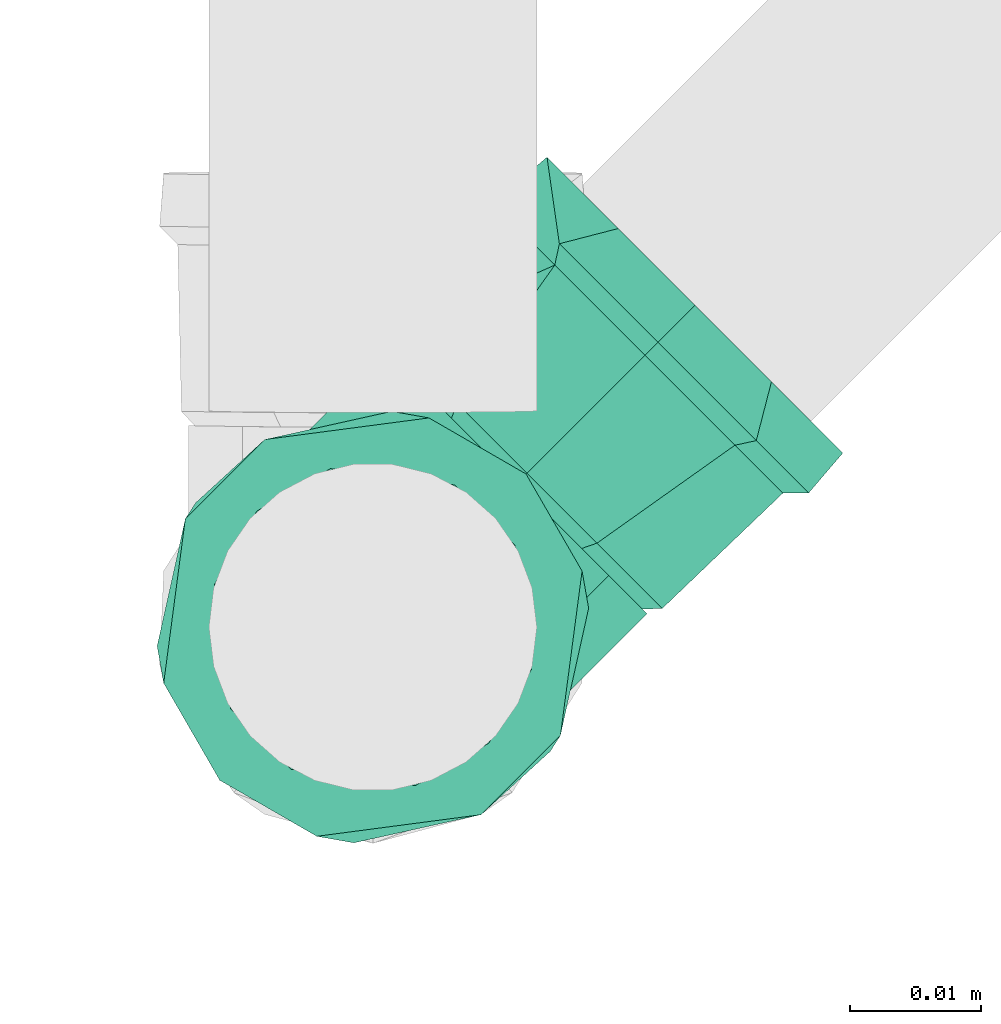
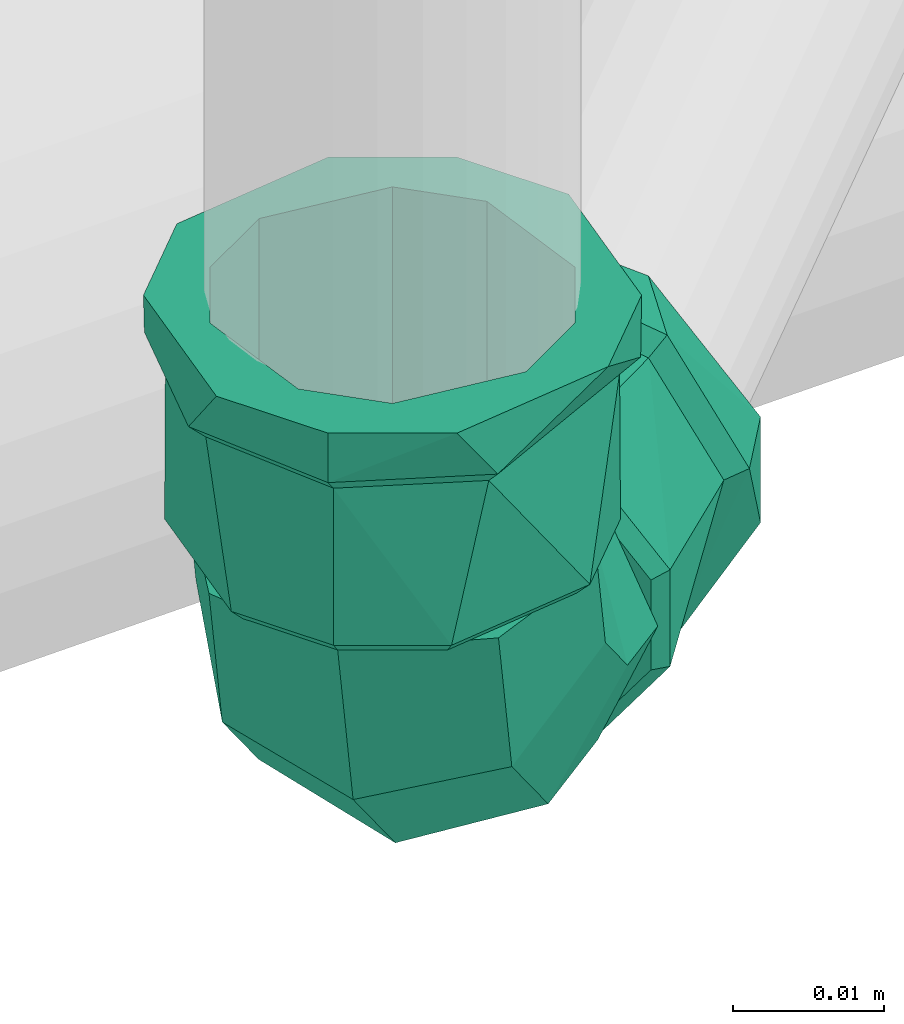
# One storey, part 358 of 589: 1 flow fitting.
"""IFC2X3 building model written with IfcOpenShell, lengths in millimetres."""

from ifc_helpers import new_model, entity, si_unit, converted_unit, derived_unit, direction, frame, origin, place, context, subcontext, project, spatial, faceted_brep, source, transform, mapped, material, type_object, type_shapes, element, save


model = new_model("IFC2X3")

# Units and contexts
model_context = context("Model", 3, precision=0.01, world=origin(), true_north=direction((6.123031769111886e-17, 1.0)))
body_context = subcontext(model_context, "Body", "Model", "MODEL_VIEW")
ifc_project = project(units=[si_unit("LENGTHUNIT", "METRE", prefix="MILLI"), si_unit("AREAUNIT", "SQUARE_METRE"), si_unit("VOLUMEUNIT", "CUBIC_METRE"), converted_unit("PLANEANGLEUNIT", "DEGREE", entity("IfcRatioMeasure", 0.017453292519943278), si_unit("PLANEANGLEUNIT", "RADIAN"), dimensions=[0, 0, 0, 0, 0, 0, 0]), si_unit("MASSUNIT", "GRAM", prefix="KILO"), derived_unit("MASSDENSITYUNIT", [(si_unit("MASSUNIT", "GRAM", prefix="KILO"), 1), (si_unit("LENGTHUNIT", "METRE"), -3)]), derived_unit("IONCONCENTRATIONUNIT", [(si_unit("MASSUNIT", "GRAM", prefix="KILO"), 1), (si_unit("LENGTHUNIT", "METRE"), -3)]), derived_unit("MOMENTOFINERTIAUNIT", [(si_unit("LENGTHUNIT", "METRE"), 4)]), si_unit("TIMEUNIT", "SECOND"), si_unit("FREQUENCYUNIT", "HERTZ"), si_unit("THERMODYNAMICTEMPERATUREUNIT", "DEGREE_CELSIUS"), derived_unit("THERMALTRANSMITTANCEUNIT", [(si_unit("MASSUNIT", "GRAM", prefix="KILO"), 1), (si_unit("THERMODYNAMICTEMPERATUREUNIT", "KELVIN"), -1), (si_unit("TIMEUNIT", "SECOND"), -3)]), derived_unit("THERMALCONDUCTANCEUNIT", [(si_unit("MASSUNIT", "GRAM", prefix="KILO"), 1), (si_unit("THERMODYNAMICTEMPERATUREUNIT", "KELVIN"), -1), (si_unit("TIMEUNIT", "SECOND"), -3), (si_unit("LENGTHUNIT", "METRE"), 1)]), derived_unit("VOLUMETRICFLOWRATEUNIT", [(si_unit("LENGTHUNIT", "METRE"), 3), (si_unit("TIMEUNIT", "SECOND"), -1)]), derived_unit("MASSFLOWRATEUNIT", [(si_unit("MASSUNIT", "GRAM", prefix="KILO"), 1), (si_unit("TIMEUNIT", "SECOND"), -1)]), derived_unit("ROTATIONALFREQUENCYUNIT", [(si_unit("TIMEUNIT", "SECOND"), -1)]), si_unit("ELECTRICCURRENTUNIT", "AMPERE"), si_unit("ELECTRICVOLTAGEUNIT", "VOLT"), si_unit("POWERUNIT", "WATT"), si_unit("FORCEUNIT", "NEWTON", prefix="KILO"), si_unit("ILLUMINANCEUNIT", "LUX"), si_unit("LUMINOUSFLUXUNIT", "LUMEN"), si_unit("LUMINOUSINTENSITYUNIT", "CANDELA"), derived_unit("USERDEFINED", [(si_unit("MASSUNIT", "GRAM", prefix="KILO"), -1), (si_unit("LENGTHUNIT", "METRE"), -2), (si_unit("TIMEUNIT", "SECOND"), 3), (si_unit("LUMINOUSFLUXUNIT", "LUMEN"), 1)]), derived_unit("USERDEFINED", [(si_unit("MASSUNIT", "GRAM", prefix="KILO"), 1), (si_unit("TIMEUNIT", "SECOND"), -3), (si_unit("LENGTHUNIT", "METRE"), 3), (si_unit("ELECTRICCURRENTUNIT", "AMPERE"), -2)]), derived_unit("SOUNDPOWERUNIT", [(si_unit("MASSUNIT", "GRAM", prefix="KILO"), 1), (si_unit("TIMEUNIT", "SECOND"), -3), (si_unit("LENGTHUNIT", "METRE"), 2)]), derived_unit("SOUNDPRESSUREUNIT", [(si_unit("MASSUNIT", "GRAM", prefix="KILO"), 1), (si_unit("LENGTHUNIT", "METRE"), -1), (si_unit("TIMEUNIT", "SECOND"), -2)]), derived_unit("LINEARVELOCITYUNIT", [(si_unit("LENGTHUNIT", "METRE"), 1), (si_unit("TIMEUNIT", "SECOND"), -1)]), si_unit("PRESSUREUNIT", "PASCAL"), derived_unit("USERDEFINED", [(si_unit("MASSUNIT", "GRAM", prefix="KILO"), 1), (si_unit("LENGTHUNIT", "METRE"), -2), (si_unit("TIMEUNIT", "SECOND"), -2)]), derived_unit("LINEARFORCEUNIT", [(si_unit("MASSUNIT", "GRAM", prefix="KILO"), 1), (si_unit("TIMEUNIT", "SECOND"), -2)]), derived_unit("PLANARFORCEUNIT", [(si_unit("MASSUNIT", "GRAM", prefix="KILO"), 1), (si_unit("LENGTHUNIT", "METRE"), -1), (si_unit("TIMEUNIT", "SECOND"), -2)]), derived_unit("SPECIFICHEATCAPACITYUNIT", [(si_unit("THERMODYNAMICTEMPERATUREUNIT", "KELVIN"), -1), (si_unit("LENGTHUNIT", "METRE"), 2), (si_unit("TIMEUNIT", "SECOND"), -2)]), derived_unit("HEATINGVALUEUNIT", [(si_unit("LENGTHUNIT", "METRE"), 2), (si_unit("TIMEUNIT", "SECOND"), -2)]), derived_unit("VAPORPERMEABILITYUNIT", [(si_unit("LENGTHUNIT", "METRE"), -1), (si_unit("TIMEUNIT", "SECOND"), 1)]), derived_unit("DYNAMICVISCOSITYUNIT", [(si_unit("MASSUNIT", "GRAM", prefix="KILO"), 1), (si_unit("TIMEUNIT", "SECOND"), -1), (si_unit("LENGTHUNIT", "METRE"), -1)]), derived_unit("THERMALEXPANSIONCOEFFICIENTUNIT", [(si_unit("THERMODYNAMICTEMPERATUREUNIT", "KELVIN"), -1)]), derived_unit("MODULUSOFELASTICITYUNIT", [(si_unit("MASSUNIT", "GRAM", prefix="KILO"), 1), (si_unit("LENGTHUNIT", "METRE"), -1), (si_unit("TIMEUNIT", "SECOND"), -2)]), derived_unit("ISOTHERMALMOISTURECAPACITYUNIT", [(si_unit("LENGTHUNIT", "METRE"), 3), (si_unit("MASSUNIT", "GRAM", prefix="KILO"), -1)]), derived_unit("MOISTUREDIFFUSIVITYUNIT", [(si_unit("TIMEUNIT", "SECOND"), -1), (si_unit("LENGTHUNIT", "METRE"), 2)])], contexts=[model_context])

# Site, building, storey
site_placement = place(None, origin())
site = spatial("IfcSite", under=ifc_project, at=site_placement, Name="Default", CompositionType="ELEMENT")
building_placement = place(site_placement, origin())
building = spatial("IfcBuilding", under=site, at=building_placement, CompositionType="ELEMENT")
storey_placement = place(building_placement, frame((0.0, 0.0, 100.0)))
storey = spatial("IfcBuildingStorey", under=building, at=storey_placement, Name="TÉRREO", CompositionType="ELEMENT", Elevation=100.0)

# Flow fitting
ifc_material = material(Name="PVC Marrom")
pipe_fitting_type = type_object("IfcPipeFittingType", Name="PVC Marrom Soldável_Joelho 45°_90°_Rodrigo MEP:Joelho", PredefinedType="NOTDEFINED", material=ifc_material)
shared_shape = source(origin(), body_context, "Body", "Brep", [
    faceted_brep([(3.908053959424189, 16.60013284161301, 14.58547997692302), (13.076869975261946, 16.600195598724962, 7.5499999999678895), (15.099886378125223, 16.600209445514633, 0.0), (13.076869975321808, 16.600195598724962, -7.550000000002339), (3.908053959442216, 16.60013284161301, -14.585479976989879), (-3.908281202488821, 16.600079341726, -14.585479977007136), (-13.077097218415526, 16.600016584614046, -7.5500000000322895), (-15.100113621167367, 16.60000273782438, 0.0), (-13.07709721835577, 16.600016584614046, 7.54999999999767), (-3.908281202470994, 16.600079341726, 14.585479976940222), (-3.633925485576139, 15.500081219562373, 13.561598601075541), (-12.159102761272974, 15.500022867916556, 7.0199999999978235), (-14.040106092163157, 15.500009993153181, 0.0), (-12.159102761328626, 15.500022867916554, -7.02000000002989), (-3.63392548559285, 15.500081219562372, -13.561598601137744), (3.6337133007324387, 15.500130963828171, -13.561598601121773), (12.158890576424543, 15.500189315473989, -7.0200000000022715), (14.039893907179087, 15.500202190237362, 0.0), (12.158890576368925, 15.500189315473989, 7.019999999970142), (3.6337133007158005, 15.500130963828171, 13.561598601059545)], [[[0, 1, 2, 3, 4, 5, 6, 7, 8, 9]], [[10, 11, 12, 13, 14, 15, 16, 17, 18, 19]], [[3, 2, 17, 16]], [[4, 3, 16, 15]], [[15, 14, 5, 4]], [[6, 5, 14, 13]], [[7, 6, 13, 12]], [[8, 7, 12, 11]], [[9, 8, 11, 10]], [[10, 19, 0, 9]], [[1, 0, 19, 18]], [[2, 1, 18, 17]]]),
    faceted_brep([(-16.60010609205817, 3.908167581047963, 14.585479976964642), (-16.60010609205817, 13.076983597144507, 7.549999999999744), (-16.60010609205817, 15.100000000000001, 0.0), (-16.60010609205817, 13.076983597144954, -7.54999999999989), (-16.60010609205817, 3.9081675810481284, -14.58547997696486), (-16.60010609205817, -3.9081675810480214, -14.585479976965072), (-16.60010609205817, -13.0769835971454, -7.550000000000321), (-16.60010609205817, -15.099999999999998, 0.0), (-16.60010609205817, -13.076983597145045, 7.550000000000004), (-16.60010609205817, -3.908167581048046, 14.585479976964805), (-15.500106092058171, 12.158996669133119, 7.019999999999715), (-15.500106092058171, 3.6338193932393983, 13.561598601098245), (-15.500106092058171, -3.633819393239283, 13.56159860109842), (-15.500106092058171, -12.15899666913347, 7.020000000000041), (-15.500106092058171, -14.040000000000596, 0.0), (-15.500106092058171, -12.158996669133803, -7.020000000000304), (-15.500106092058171, -3.63381939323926, -13.561598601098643), (-15.500106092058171, 3.6338193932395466, -13.56159860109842), (-15.500106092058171, 12.158996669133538, -7.019999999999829), (-15.500106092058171, 14.03999999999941, 0.0)], [[[0, 1, 2, 3, 4, 5, 6, 7, 8, 9]], [[10, 11, 12, 13, 14, 15, 16, 17, 18, 19]], [[3, 2, 19, 18]], [[4, 3, 18, 17]], [[17, 16, 5, 4]], [[6, 5, 16, 15]], [[7, 6, 15, 14]], [[8, 7, 14, 13]], [[9, 8, 13, 12]], [[12, 11, 0, 9]], [[1, 0, 11, 10]], [[2, 1, 10, 19]]]),
    faceted_brep([(-34.70010609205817, -4.2705142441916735, -15.937776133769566), (-34.70010609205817, -6.250000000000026, -10.825317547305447), (-34.70010609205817, 0.0, -12.5), (-34.70010609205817, -14.289419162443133, -8.25000000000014), (-34.70010609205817, 4.270514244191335, -15.937776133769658), (-34.70010609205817, -12.074072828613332, -3.23523806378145), (-34.70010609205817, -16.499999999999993, 0.0), (-34.70010609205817, -12.074072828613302, 3.2352380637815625), (-34.70010609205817, -14.289419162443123, 8.249999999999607), (-34.70010609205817, -6.249999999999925, 10.825317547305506), (-34.70010609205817, -4.27051424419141, 15.937776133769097), (-34.70010609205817, 0.0, 12.5), (-34.70010609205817, 4.270514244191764, 15.937776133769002), (-34.70010609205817, 6.249999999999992, 10.825317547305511), (-34.70010609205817, 14.28941916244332, 8.249999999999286), (-34.70010609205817, 12.074072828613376, 3.2352380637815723), (-34.70010609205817, 16.500000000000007, 0.0), (-34.70010609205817, 12.074072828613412, -3.235238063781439), (-34.70010609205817, 14.289419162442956, -8.250000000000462), (-34.70010609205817, 6.250000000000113, -10.82531754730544), (-30.70010609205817, 16.5, 0.0), (-30.70010609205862, 12.639142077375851, 10.606700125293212), (-30.70010609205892, 2.8633833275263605, 16.249647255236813), (-30.70010609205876, -12.64180232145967, 10.603529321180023), (-30.70010609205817, -16.499999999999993, 0.0), (-30.70010609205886, -4.889209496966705, 13.426588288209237), (-30.700106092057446, -12.641802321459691, -10.603529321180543), (-30.700106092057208, -2.8674593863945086, -16.24892847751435), (-30.700106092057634, 12.639142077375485, -10.606700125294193), (-30.700106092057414, 4.885841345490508, -13.427814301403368), (-29.300106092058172, -15.099999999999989, 0.0), (-29.3001060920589, -11.56916454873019, 9.703835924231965), (-29.300106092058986, -4.474367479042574, 12.287362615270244), (-29.300106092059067, 2.6204295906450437, 14.870889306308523), (-29.300106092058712, 11.566730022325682, 9.706737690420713), (-29.30010609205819, 15.099999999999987, 0.0), (-29.300106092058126, 11.566730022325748, -9.706737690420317), (-29.300106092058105, 4.4712851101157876, -12.28848460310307), (-29.300106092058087, -2.6241598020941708, -14.870231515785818), (-29.3001060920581, -11.569164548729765, -9.703835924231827), (-16.60010609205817, 0.0, -12.5), (-16.60010609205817, -6.250000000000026, -10.825317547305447), (-16.60010609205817, -3.908167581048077, -14.585479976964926), (-16.60010609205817, 3.9081675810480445, -14.585479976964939), (-16.60010609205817, 6.250000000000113, -10.82531754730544), (-16.60010609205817, -13.076983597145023, -7.549999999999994), (-16.60010609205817, -12.074072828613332, -3.23523806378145), (-16.60010609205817, -15.099999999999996, 0.0), (-16.60010609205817, -12.074072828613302, 3.2352380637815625), (-16.60010609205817, -13.076983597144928, 7.550000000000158), (-16.60010609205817, -6.249999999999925, 10.825317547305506), (-16.60010609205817, -3.9081675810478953, 14.585479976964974), (-16.60010609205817, 0.0, 12.5), (-16.60010609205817, 3.9081675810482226, 14.58547997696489), (-16.60010609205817, 6.249999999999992, 10.825317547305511), (-16.60010609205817, 13.076983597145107, 7.549999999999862), (-16.60010609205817, 12.074072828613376, 3.2352380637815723), (-16.60010609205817, 15.100000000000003, 0.0), (-16.60010609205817, 12.074072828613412, -3.235238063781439), (-16.60010609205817, 13.076983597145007, -7.550000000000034)], [[[0, 1, 2]], [[1, 0, 3]], [[2, 4, 0]], [[3, 5, 1]], [[3, 6, 5]], [[5, 6, 7]], [[8, 7, 6]], [[7, 8, 9]], [[10, 9, 8]], [[9, 10, 11]], [[11, 10, 12]], [[12, 13, 11]], [[14, 13, 12]], [[13, 14, 15]], [[16, 15, 14]], [[16, 17, 15]], [[18, 17, 16]], [[19, 17, 18]], [[19, 18, 4]], [[4, 2, 19]], [[16, 14, 20]], [[14, 21, 20]], [[21, 14, 12]], [[21, 12, 22]], [[23, 10, 8]], [[24, 8, 6]], [[10, 23, 25, 22]], [[23, 8, 24]], [[10, 22, 12]], [[6, 3, 24]], [[3, 26, 24]], [[26, 3, 0]], [[26, 0, 27]], [[28, 4, 18]], [[20, 18, 16]], [[4, 28, 29, 27]], [[28, 18, 20]], [[4, 27, 0]], [[30, 31, 23, 24]], [[31, 32, 33, 22, 25, 23]], [[34, 35, 20, 21]], [[34, 21, 22, 33]], [[35, 36, 28, 20]], [[36, 37, 38, 27, 29, 28]], [[39, 30, 24, 26]], [[39, 26, 27, 38]], [[40, 41, 42]], [[42, 43, 40]], [[44, 40, 43]], [[45, 42, 41]], [[41, 46, 45]], [[46, 47, 45]], [[48, 47, 46]], [[47, 48, 49]], [[50, 49, 48]], [[49, 50, 51]], [[52, 51, 50]], [[53, 51, 52]], [[52, 54, 53]], [[53, 54, 55]], [[56, 55, 54]], [[55, 56, 57]], [[56, 58, 57]], [[59, 58, 44]], [[57, 58, 59]], [[43, 59, 44]], [[35, 34, 55]], [[35, 55, 57]], [[55, 34, 53]], [[34, 33, 53]], [[51, 33, 32, 31]], [[49, 31, 30]], [[31, 49, 51]], [[49, 30, 47]], [[33, 51, 53]], [[30, 39, 45]], [[30, 45, 47]], [[45, 39, 42]], [[39, 38, 42]], [[43, 38, 37, 36]], [[59, 36, 35]], [[36, 59, 43]], [[59, 35, 57]], [[38, 43, 42]], [[9, 11, 52, 50]], [[7, 9, 50, 48]], [[48, 46, 5, 7]], [[1, 5, 46, 41]], [[2, 1, 41, 40]], [[19, 2, 40, 44]], [[17, 19, 44, 58]], [[58, 56, 15, 17]], [[13, 15, 56, 54]], [[11, 13, 54, 52]]]),
    faceted_brep([(-0.7300477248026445, -10.082356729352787, 0.0), (-2.7861662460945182, -6.52107374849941, 9.92777920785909), (-15.50010609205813, -9.927779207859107, 9.92777920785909), (-15.500106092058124, -14.039999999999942, 0.0), (-7.750075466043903, 2.076623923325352, 14.04), (-15.500106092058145, 0.0, 14.04), (-12.713984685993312, 10.674321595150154, 9.927779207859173), (-15.50010609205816, 9.927779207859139, 9.927779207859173), (-14.770103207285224, 14.235604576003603, 0.0), (-15.500106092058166, 14.040000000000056, 0.0), (-12.713984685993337, 10.674321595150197, -9.92777920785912), (-15.50010609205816, 9.927779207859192, -9.92777920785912), (-7.750075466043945, 2.0766239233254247, -14.04), (-15.500106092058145, 0.0, -14.04), (-2.7861662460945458, -6.521073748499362, -9.927779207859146), (-15.50010609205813, -9.927779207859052, -9.927779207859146), (10.082351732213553, 0.7301167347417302, 0.0), (6.521054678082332, 2.7862108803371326, 9.92777920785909), (-2.0766769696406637, 7.75006125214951, 14.04), (-10.674408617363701, 12.71391162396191, 9.927779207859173), (-14.235705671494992, 14.770005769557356, 0.0), (-10.674408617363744, 12.713911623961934, -9.92777920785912), (-2.076676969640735, 7.7500612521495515, -14.04), (6.521054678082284, 2.78621088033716, -9.927779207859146), (14.039893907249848, 15.500202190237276, 0.0), (9.927673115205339, 15.500174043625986, 9.92777920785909), (-0.0001060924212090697, 15.500106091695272, 14.04), (-9.927885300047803, 15.500038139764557, 9.927779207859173), (-14.040106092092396, 15.500009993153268, 0.0), (-9.927885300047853, 15.500038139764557, -9.92777920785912), (-0.00010609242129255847, 15.500106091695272, -14.04), (9.927673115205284, 15.500174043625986, -9.927779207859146)], [[[0, 1, 2, 3]], [[1, 4, 5, 2]], [[4, 6, 7, 5]], [[6, 8, 9, 7]], [[8, 10, 11, 9]], [[10, 12, 13, 11]], [[12, 14, 15, 13]], [[14, 0, 3, 15]], [[16, 17, 1, 0]], [[17, 18, 4, 1]], [[18, 19, 6, 4]], [[19, 20, 8, 6]], [[20, 21, 10, 8]], [[21, 22, 12, 10]], [[22, 23, 14, 12]], [[23, 16, 0, 14]], [[24, 25, 17, 16]], [[25, 26, 18, 17]], [[26, 27, 19, 18]], [[27, 28, 20, 19]], [[28, 29, 21, 20]], [[29, 30, 22, 21]], [[30, 31, 23, 22]], [[31, 24, 16, 23]], [[3, 2, 5, 7, 9, 11, 13, 15]], [[31, 30, 29, 28, 27, 26, 25, 24]]]),
    faceted_brep([(-0.00011362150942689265, 16.600106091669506, -12.5), (-6.250113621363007, 16.6000633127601, -10.825317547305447), (-3.90828120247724, 16.600079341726, -14.585479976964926), (3.9080539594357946, 16.60013284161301, -14.585479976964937), (6.249886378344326, 16.600148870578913, -10.82531754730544), (-13.077097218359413, 16.600016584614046, -7.549999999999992), (-12.07418644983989, 16.600023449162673, -3.23523806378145), (-15.100113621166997, 16.60000273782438, 0.0), (-12.07418644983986, 16.600023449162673, 3.2352380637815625), (-13.077097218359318, 16.600016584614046, 7.550000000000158), (-6.250113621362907, 16.6000633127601, 10.825317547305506), (-3.908281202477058, 16.600079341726, 14.585479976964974), (-0.00011362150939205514, 16.600106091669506, 12.5), (3.9080539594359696, 16.60013284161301, 14.58547997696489), (6.249886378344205, 16.600148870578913, 10.825317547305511), (13.07686997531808, 16.600195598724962, 7.549999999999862), (12.073959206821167, 16.60018873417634, 3.2352380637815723), (15.09988637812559, 16.600209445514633, 0.0), (12.073959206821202, 16.60018873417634, -3.235238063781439), (13.076869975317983, 16.600195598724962, -7.550000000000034), (15.099799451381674, 29.300209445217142, 0.0), (11.566529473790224, 29.30018526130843, 9.706737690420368), (4.47108456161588, 29.3001366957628, 12.28848460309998), (-2.624360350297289, 29.30008812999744, 14.870231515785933), (-11.56936509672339, 29.300026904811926, 9.703835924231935), (-15.100200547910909, 29.30000273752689, 0.0), (-11.569365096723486, 29.300026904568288, -9.703835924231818), (-4.474568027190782, 29.30007546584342, -12.287362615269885), (2.6202290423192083, 29.30012402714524, -14.870889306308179), (11.566529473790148, 29.30018526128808, -9.706737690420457), (-12.639352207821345, 30.700019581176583, 10.60670012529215), (-16.500210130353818, 30.69999315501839, 0.0), (-2.8635934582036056, 30.700086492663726, 16.24964725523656), (12.641592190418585, 30.700192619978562, 10.603529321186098), (4.888999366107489, 30.700139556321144, 13.42658828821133), (16.499789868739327, 30.700219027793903, 0.0), (12.6415921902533, 30.700192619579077, -10.603529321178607), (2.867249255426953, 30.700125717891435, -16.248928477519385), (-12.639352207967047, 30.700019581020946, -10.60670012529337), (-4.8860514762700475, 30.700072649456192, -13.427814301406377), (-4.270751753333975, 34.70007686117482, -15.937776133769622), (-6.250237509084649, 34.700063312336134, -10.825317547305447), (-0.00023750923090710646, 34.70010609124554, -12.5), (-14.289656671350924, 34.700008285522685, -8.249999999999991), (4.270276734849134, 34.70013532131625, -15.937776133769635), (-12.074310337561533, 34.700023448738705, -3.23523806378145), (-16.500237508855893, 34.699993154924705, 0.0), (-12.074310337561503, 34.700023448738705, 3.2352380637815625), (-14.289656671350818, 34.700008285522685, 8.250000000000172), (-6.250237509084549, 34.700063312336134, 10.825317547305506), (-4.27075175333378, 34.70007686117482, 15.937776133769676), (-0.00023750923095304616, 34.70010609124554, 12.5), (4.27027673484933, 34.70013532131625, 15.937776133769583), (6.249762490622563, 34.70014887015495, 10.825317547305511), (14.289181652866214, 34.70020389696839, 8.24999999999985), (12.073835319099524, 34.70018873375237, 3.2352380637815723), (16.4997624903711, 34.700219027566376, 0.0), (12.07383531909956, 34.70018873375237, -3.235238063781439), (14.289181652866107, 34.70020389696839, -8.250000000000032), (6.249762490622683, 34.70014887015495, -10.82531754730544)], [[[0, 1, 2]], [[2, 3, 0]], [[4, 0, 3]], [[5, 2, 1]], [[1, 6, 5]], [[6, 7, 5]], [[8, 7, 6]], [[7, 8, 9]], [[10, 9, 8]], [[9, 10, 11]], [[12, 11, 10]], [[13, 11, 12]], [[12, 14, 13]], [[13, 14, 15]], [[16, 15, 14]], [[15, 16, 17]], [[16, 18, 17]], [[19, 18, 4]], [[17, 18, 19]], [[3, 19, 4]], [[20, 21, 15]], [[20, 15, 17]], [[15, 21, 13]], [[13, 21, 22, 23]], [[11, 23, 24]], [[9, 24, 25]], [[24, 9, 11]], [[9, 25, 7]], [[23, 11, 13]], [[25, 26, 5]], [[25, 5, 7]], [[5, 26, 2]], [[2, 26, 27, 28]], [[3, 28, 29]], [[19, 29, 20]], [[29, 19, 3]], [[19, 20, 17]], [[28, 3, 2]], [[24, 23, 30]], [[25, 24, 31]], [[31, 24, 30]], [[23, 32, 30]], [[21, 20, 33]], [[21, 33, 34]], [[22, 32, 23]], [[35, 33, 20]], [[32, 22, 34]], [[22, 21, 34]], [[20, 29, 36]], [[36, 35, 20]], [[37, 36, 29]], [[38, 39, 27]], [[29, 28, 37]], [[26, 25, 31]], [[38, 27, 26]], [[38, 26, 31]], [[28, 39, 37]], [[39, 28, 27]], [[40, 41, 42]], [[41, 40, 43]], [[42, 44, 40]], [[43, 45, 41]], [[43, 46, 45]], [[45, 46, 47]], [[48, 47, 46]], [[47, 48, 49]], [[50, 49, 48]], [[49, 50, 51]], [[51, 50, 52]], [[52, 53, 51]], [[54, 53, 52]], [[53, 54, 55]], [[56, 55, 54]], [[56, 57, 55]], [[58, 57, 56]], [[59, 57, 58]], [[59, 58, 44]], [[44, 42, 59]], [[56, 54, 35]], [[54, 33, 35]], [[33, 54, 52]], [[52, 32, 34, 33]], [[30, 50, 48]], [[31, 48, 46]], [[50, 30, 32]], [[30, 48, 31]], [[50, 32, 52]], [[46, 43, 31]], [[43, 38, 31]], [[38, 43, 40]], [[40, 37, 39, 38]], [[36, 44, 58]], [[35, 58, 56]], [[44, 36, 37]], [[36, 58, 35]], [[44, 37, 40]], [[49, 51, 12, 10]], [[47, 49, 10, 8]], [[8, 6, 45, 47]], [[41, 45, 6, 1]], [[42, 41, 1, 0]], [[59, 42, 0, 4]], [[57, 59, 4, 18]], [[18, 16, 55, 57]], [[53, 55, 16, 14]], [[51, 53, 14, 12]]]),
])
type_shapes(pipe_fitting_type, [shared_shape])
flow_fitting_placement = place(storey_placement, frame((-5713.364418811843, -662.6954897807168, -37.359807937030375), z_axis=(0.7071067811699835, -0.7071067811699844, 6.8446255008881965e-06), x_axis=(0.0, -9.679762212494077e-06, -1.0)))
element("IfcFlowFitting", 1, at=flow_fitting_placement, inside=storey, type_object=pipe_fitting_type, material=ifc_material, Name="PVC Marrom Soldável_Joelho 45°_90°_Rodrigo MEP:Joelho", ObjectType="PVC Marrom Soldável_Joelho 45°_90°_Rodrigo MEP:Joelho", context=body_context, shape_type="MappedRepresentation", body=[
    mapped(shared_shape, transform((0.0, 0.0, 0.0), scale=1.0)),
])

save(model, "model.ifc")
